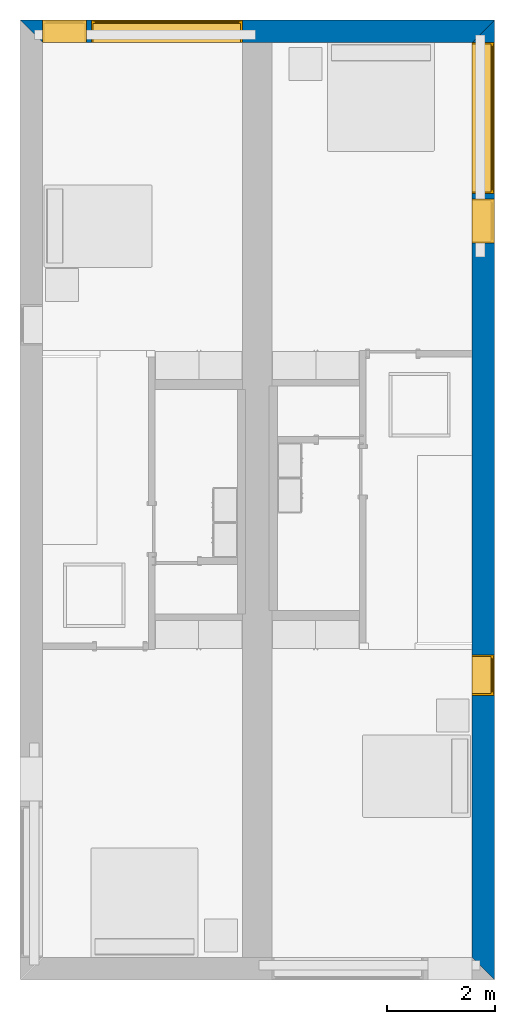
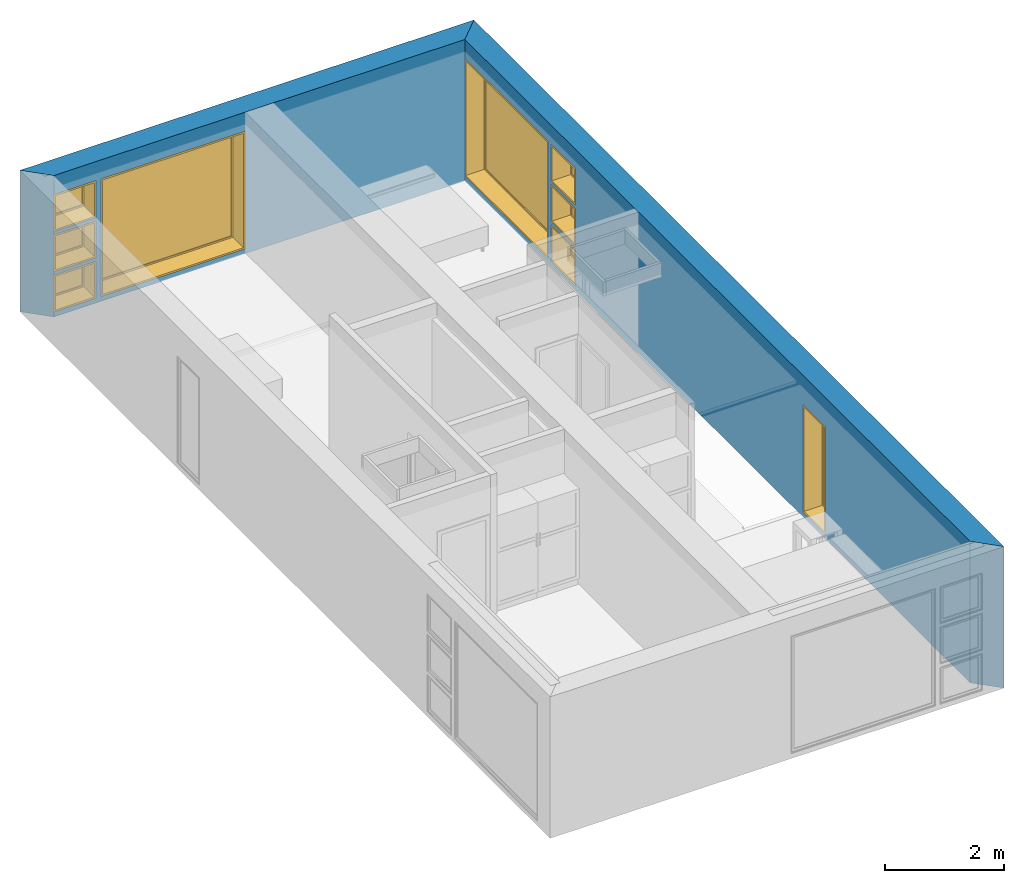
# One storey, part 4 of 16: 9 windows, 2 walls, 9 openings.
"""IFC4 building model written with IfcOpenShell, lengths in metres."""

from ifc_helpers import new_model, entity, si_unit, converted_unit, frame, frame_2d, origin, origin_2d_with_axis, place, context, project, spatial, polyline, rectangle, outline, extrude, source, transform, mapped, material, layer, layer_set, layer_usage, type_object, type_shapes, element, fill, save


model = new_model("IFC4")

# Units and contexts
model_context = context("Model", 3, precision=1e-09, world=origin())
plan_context = context("Plan", 3, precision=1e-09, world=origin())
ifc_project = project(units=[si_unit("LENGTHUNIT", "METRE"), si_unit("AREAUNIT", "SQUARE_METRE"), si_unit("VOLUMEUNIT", "CUBIC_METRE"), converted_unit("PLANEANGLEUNIT", "DEGREE", entity("IfcRatioMeasure", 0.01745329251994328), si_unit("PLANEANGLEUNIT", "RADIAN"), dimensions=[0, 0, 0, 0, 0, 0, 0]), si_unit("TIMEUNIT", "SECOND")], contexts=[model_context, plan_context])

# Site, building, storey
site_placement = place(None, origin())
site = spatial("IfcSite", under=ifc_project, at=site_placement, Name="Default", CompositionType="ELEMENT")
building_placement = place(site_placement, origin())
building = spatial("IfcBuilding", under=site, at=building_placement, CompositionType="ELEMENT")
storey_placement = place(building_placement, frame((0.0, 0.0, 3.100000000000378)))
storey = spatial("IfcBuildingStorey", under=building, at=storey_placement, Name="Level 2", CompositionType="ELEMENT", Elevation=3.100000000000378)

# Wall, openings, windows
ifc_material_1 = material(Name="Masonry - Brick")
ifc_layer_1 = layer(ifc_material_1, 0.092)
ifc_material_2 = material(Name="Misc. Air Layers - Air Space")
ifc_layer_2 = layer(ifc_material_2, 0.025)
ifc_material_3 = material(Name="Insulation / Thermal Barriers - Rigid insulation")
ifc_layer_3 = layer(ifc_material_3, 0.05)
ifc_material_4 = material(Name="Masonry - Concrete Block")
ifc_layer_4 = layer(ifc_material_4, 0.193)
ifc_material_5 = material(Name="Metal - Stud Layer")
ifc_layer_5 = layer(ifc_material_5, 0.041)
ifc_material_6 = material(Name="Plasterboard")
ifc_layer_6 = layer(ifc_material_6, 0.016)
ifc_layer_set = layer_set([ifc_layer_1, ifc_layer_2, ifc_layer_3, ifc_layer_4, ifc_layer_5, ifc_layer_6], Name="Basic Wall:Exterior - Brick on Block")
ifc_layer_usage_1 = layer_usage(ifc_layer_set, "AXIS2", "NEGATIVE", 0.2085000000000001)
wall_1_placement = place(storey_placement, frame((0.0, -0.2085000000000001, 0.0)))
wall_1 = element("IfcWall", 1, at=wall_1_placement, inside=storey, material=ifc_layer_usage_1, Name="Basic Wall:Exterior - Brick on Block", ObjectType="Basic Wall:Exterior - Brick on Block", PredefinedType="SOLIDWALL", context=model_context, shape_type="SweptSolid", body=[
    extrude(outline(polyline([(8.383000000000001, -0.2085000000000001), (8.8, 0.2085000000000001), (0.0, 0.2085000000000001), (0.4170000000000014, -0.2085000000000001), (4.125000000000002, -0.2085000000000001), (4.675000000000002, -0.2085000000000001), (8.383000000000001, -0.2085000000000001)])), origin(), (0.0, 0.0, 1.0), 2.900000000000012),
])
opening_1_placement = place(wall_1_placement, frame((0.4170000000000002, -0.2085000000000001, 1.750999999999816)))
opening_1 = element("IfcOpeningElement", 2, at=opening_1_placement, cuts=wall_1, Name="M_Fixed:819mm x 759mm:819mm x 759mm:1", ObjectType="Opening", context=model_context, shape_type="SweptSolid", body=[
    extrude(rectangle(XDim=0.7589999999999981, YDim=0.8189999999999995, at=frame_2d((0.3794999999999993, 0.4094999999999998), x_axis=(1.0, 0.0))), frame((0.0, 0.0, 0.0), z_axis=(0.0, 1.0, 0.0), x_axis=(0.0, 0.0, 1.0)), (0.0, 0.0, 1.0), 0.4170000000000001),
])
opening_2_placement = place(wall_1_placement, frame((0.417000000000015, -0.2085000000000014, 0.9254999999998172)))
opening_2 = element("IfcOpeningElement", 3, at=opening_2_placement, cuts=wall_1, Name="M_Casement:819mm x 759mm:819mm x 759mm:1", ObjectType="Opening", context=model_context, shape_type="SweptSolid", body=[
    extrude(rectangle(XDim=0.7590000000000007, YDim=0.8189999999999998, at=frame_2d((0.3795000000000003, 0.4094999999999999), x_axis=(-1.0, 0.0))), frame((0.0, 0.0, 0.0), z_axis=(0.0, 1.0, 0.0), x_axis=(0.0, 0.0, 1.0)), (0.0, 0.0, 1.0), 0.4170000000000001),
])
opening_3_placement = place(wall_1_placement, frame((0.4170000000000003, -0.2085000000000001, 0.0999999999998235)))
opening_3 = element("IfcOpeningElement", 4, at=opening_3_placement, cuts=wall_1, Name="M_Fixed:819mm x 759mm:819mm x 759mm:1", ObjectType="Opening", context=model_context, shape_type="SweptSolid", body=[
    extrude(rectangle(XDim=0.7589999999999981, YDim=0.8189999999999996, at=frame_2d((0.379499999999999, 0.4095), x_axis=(1.0, 0.0))), frame((0.0, 0.0, 0.0), z_axis=(0.0, 1.0, 0.0), x_axis=(0.0, 0.0, 1.0)), (0.0, 0.0, 1.0), 0.4170000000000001),
])
opening_4_placement = place(wall_1_placement, frame((1.325, -0.2084999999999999, 0.09999999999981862)))
opening_4 = element("IfcOpeningElement", 5, at=opening_4_placement, cuts=wall_1, Name="M_Fixed:2800mm x 2410mm:2800mm x 2410mm:1", ObjectType="Opening", context=model_context, shape_type="SweptSolid", body=[
    extrude(rectangle(XDim=2.409999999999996, YDim=2.8, at=frame_2d((1.204999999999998, 1.4), x_axis=(1.0, 0.0))), frame((0.0, 0.0, 0.0), z_axis=(0.0, 1.0, 0.0), x_axis=(0.0, 0.0, 1.0)), (0.0, 0.0, 1.0), 0.4170000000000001),
])
window_type_1 = type_object("IfcWindowType", Name="2800mm x 2410mm", ParameterTakesPrecedence=False, PartitioningType="NOTDEFINED", PredefinedType="WINDOW")
shared_shape_1 = source(origin(), model_context, "Body", "SweptSolid", [
    extrude(rectangle(XDim=0.01199999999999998, YDim=2.673999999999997, at=origin_2d_with_axis()), frame((1.400000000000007, 0.3759999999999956, 0.06299999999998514), z_axis=(0.0, 0.0, 1.0), x_axis=(0.0, -1.0, 0.0)), (0.0, 0.0, 1.0), 2.284000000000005),
    extrude(outline(polyline([(-1.381, -1.186000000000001), (1.381, -1.186000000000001), (1.381, 1.186000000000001), (-1.381, 1.186000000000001), (-1.381, -1.186000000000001)]), holes=[polyline([(-1.336999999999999, -1.142000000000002), (-1.336999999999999, 1.142000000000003), (1.336999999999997, 1.142000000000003), (1.336999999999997, -1.142000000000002), (-1.336999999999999, -1.142000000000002)])]), frame((1.400000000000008, 0.3539999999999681, 1.204999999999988), z_axis=(0.0, 1.0, 0.0), x_axis=(1.0, 0.0, 0.0)), (0.0, 0.0, 1.0), 0.04400000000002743),
    extrude(outline(polyline([(-1.4, -1.204999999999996), (1.4, -1.204999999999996), (1.4, 1.204999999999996), (-1.4, 1.204999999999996), (-1.4, -1.204999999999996)]), holes=[polyline([(-1.381000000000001, -1.185999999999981), (-1.381000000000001, 1.186000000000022), (1.380999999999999, 1.186000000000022), (1.380999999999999, -1.185999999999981), (-1.381000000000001, -1.185999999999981)])]), frame((1.400000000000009, 0.3539999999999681, 1.205000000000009), z_axis=(0.0, 1.0, 0.0), x_axis=(1.0, 0.0, 0.0)), (0.0, 0.0, 1.0), 0.06300000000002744),
    extrude(outline(polyline([(-1.4, -1.204999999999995), (1.4, -1.204999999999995), (1.4, 1.204999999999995), (-1.4, 1.204999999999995), (-1.4, -1.204999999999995)]), holes=[polyline([(-1.368, -1.172999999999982), (-1.368, 1.17300000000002), (1.368, 1.17300000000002), (1.367999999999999, -1.172999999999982), (-1.368, -1.172999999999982)])]), frame((1.40000000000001, 0.0, 1.205000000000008), z_axis=(0.0, 1.0, 0.0), x_axis=(1.0, 0.0, 0.0)), (0.0, 0.0, 1.0), 0.3539999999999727),
])
type_shapes(window_type_1, [shared_shape_1])
window_1_placement = place(opening_4_placement, origin())
window_1 = element("IfcWindow", 6, at=window_1_placement, inside=storey, type_object=window_type_1, Name="M_Fixed:2800mm x 2410mm:2800mm x 2410mm", ObjectType="2800mm x 2410mm", OverallHeight=2.409999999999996, OverallWidth=2.8, context=model_context, shape_type="MappedRepresentation", body=[
    mapped(shared_shape_1, transform((0.0, 0.0, 0.0), scale=1.0)),
])
fill(opening_4, window_1)
window_type_2 = type_object("IfcWindowType", Name="819mm x 759mm", ParameterTakesPrecedence=False, PartitioningType="NOTDEFINED", PredefinedType="WINDOW")
shared_shape_2 = source(origin(), model_context, "Body", "SweptSolid", [
    extrude(rectangle(XDim=0.01199999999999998, YDim=0.6929999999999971, at=origin_2d_with_axis()), frame((0.4095000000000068, 0.3759999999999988, 0.06299999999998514), z_axis=(0.0, 0.0, 1.0), x_axis=(0.0, -1.0, 0.0)), (0.0, 0.0, 1.0), 0.6330000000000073),
    extrude(outline(polyline([(-0.3904999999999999, -0.3605000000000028), (0.3904999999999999, -0.3605000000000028), (0.3904999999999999, 0.3605000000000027), (-0.3904999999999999, 0.3605000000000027), (-0.3904999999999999, -0.3605000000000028)]), holes=[polyline([(-0.3464999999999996, -0.3165000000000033), (-0.3464999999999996, 0.316500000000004), (0.3464999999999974, 0.316500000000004), (0.3464999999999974, -0.3165000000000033), (-0.3464999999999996, -0.3165000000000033)])]), frame((0.4095000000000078, 0.3539999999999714, 0.3794999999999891), z_axis=(0.0, 1.0, 0.0), x_axis=(1.0, 0.0, 0.0)), (0.0, 0.0, 1.0), 0.04400000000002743),
    extrude(outline(polyline([(-0.4094999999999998, -0.3794999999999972), (0.4094999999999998, -0.3794999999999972), (0.4094999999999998, 0.3794999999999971), (-0.4094999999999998, 0.3794999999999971), (-0.4094999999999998, -0.3794999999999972)]), holes=[polyline([(-0.3905000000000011, -0.3604999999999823), (-0.3905000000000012, 0.3605000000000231), (0.3904999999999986, 0.3605000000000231), (0.3904999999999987, -0.3604999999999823), (-0.3905000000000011, -0.3604999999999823)])]), frame((0.4095000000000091, 0.3539999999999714, 0.3795000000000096), z_axis=(0.0, 1.0, 0.0), x_axis=(1.0, 0.0, 0.0)), (0.0, 0.0, 1.0), 0.06300000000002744),
    extrude(outline(polyline([(-0.4095000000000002, -0.3794999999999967), (0.4095000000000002, -0.3794999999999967), (0.4095000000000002, 0.3794999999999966), (-0.4095000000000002, 0.3794999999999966), (-0.4095000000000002, -0.3794999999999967)]), holes=[polyline([(-0.3774999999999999, -0.3474999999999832), (-0.3774999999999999, 0.3475000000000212), (0.3775000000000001, 0.3475000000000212), (0.3775000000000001, -0.3474999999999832), (-0.3774999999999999, -0.3474999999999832)])]), frame((0.4095000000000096, 0.0, 0.379500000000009), z_axis=(0.0, 1.0, 0.0), x_axis=(1.0, 0.0, 0.0)), (0.0, 0.0, 1.0), 0.3539999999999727),
])
type_shapes(window_type_2, [shared_shape_2])
window_2_placement = place(opening_3_placement, origin())
window_2 = element("IfcWindow", 7, at=window_2_placement, inside=storey, type_object=window_type_2, Name="M_Fixed:819mm x 759mm:819mm x 759mm", ObjectType="819mm x 759mm", OverallHeight=0.758999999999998, OverallWidth=0.8189999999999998, context=model_context, shape_type="MappedRepresentation", body=[
    mapped(shared_shape_2, transform((0.0, 0.0, 0.0), scale=1.0)),
])
fill(opening_3, window_2)
window_3_placement = place(opening_1_placement, origin())
window_3 = element("IfcWindow", 8, at=window_3_placement, inside=storey, type_object=window_type_2, Name="M_Fixed:819mm x 759mm:819mm x 759mm", ObjectType="819mm x 759mm", OverallHeight=0.7589999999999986, OverallWidth=0.8189999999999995, context=model_context, shape_type="MappedRepresentation", body=[
    mapped(shared_shape_2, transform((0.0, 0.0, 0.0), scale=1.0)),
])
fill(opening_1, window_3)
window_type_3 = type_object("IfcWindowType", Name="819mm x 759mm", ParameterTakesPrecedence=False, PartitioningType="NOTDEFINED", PredefinedType="WINDOW")
shared_shape_3 = source(origin(), model_context, "Body", "SweptSolid", [
    extrude(rectangle(XDim=0.01269999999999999, YDim=0.6919999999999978, at=origin_2d_with_axis()), frame((0.4095000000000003, 0.3757750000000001, 0.06350000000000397), z_axis=(0.0, 0.0, 1.0), x_axis=(0.0, 1.0, 0.0)), (0.0, 0.0, 1.0), 0.6320000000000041),
    extrude(outline(polyline([(-0.3904499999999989, -0.3604500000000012), (0.3904499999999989, -0.3604500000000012), (0.3904499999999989, 0.3604500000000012), (-0.3904499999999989, 0.3604500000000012), (-0.3904499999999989, -0.3604500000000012)]), holes=[polyline([(-0.3459999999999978, -0.3160000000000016), (-0.3459999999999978, 0.3160000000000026), (0.346, 0.3160000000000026), (0.346, -0.3160000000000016), (-0.3459999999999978, -0.3160000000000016)])]), frame((0.4094999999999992, 0.3535500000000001, 0.3795000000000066), z_axis=(0.0, 1.0, 0.0), x_axis=(1.0, 0.0, 0.0)), (0.0, 0.0, 1.0), 0.04445),
    extrude(outline(polyline([(-0.4094999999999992, -0.3795000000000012), (0.4094999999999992, -0.3795000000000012), (0.4094999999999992, 0.3795000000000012), (-0.4094999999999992, 0.3795000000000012), (-0.4094999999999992, -0.3795000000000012)]), holes=[polyline([(-0.3777500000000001, -0.3477499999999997), (-0.3777500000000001, 0.3477500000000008), (0.3777499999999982, 0.3477500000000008), (0.3777499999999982, -0.3477499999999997), (-0.3777500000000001, -0.3477499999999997)])]), frame((0.4095000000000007, 0.0, 0.3795000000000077), z_axis=(0.0, 1.0, 0.0), x_axis=(1.0, 0.0, 0.0)), (0.0, 0.0, 1.0), 0.3535500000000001),
    extrude(outline(polyline([(-0.3795000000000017, -0.4094999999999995), (0.3795000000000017, -0.4094999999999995), (0.3795000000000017, 0.4094999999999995), (-0.3795000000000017, 0.4094999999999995), (-0.3795000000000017, -0.4094999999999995)]), holes=[polyline([(-0.3604500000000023, -0.3904499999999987), (-0.3604500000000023, 0.3904499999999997), (0.3604500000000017, 0.3904499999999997), (0.3604500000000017, -0.3904499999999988), (-0.3604500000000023, -0.3904499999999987)])]), frame((0.4095000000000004, 0.3535500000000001, 0.3795000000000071), z_axis=(0.0, 1.0, 0.0), x_axis=(0.0, 0.0, -1.0)), (0.0, 0.0, 1.0), 0.06345),
])
type_shapes(window_type_3, [shared_shape_3])
window_4_placement = place(opening_2_placement, origin())
window_4 = element("IfcWindow", 9, at=window_4_placement, inside=storey, type_object=window_type_3, Name="M_Casement:819mm x 759mm:819mm x 759mm", ObjectType="819mm x 759mm", OverallHeight=0.7590000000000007, OverallWidth=0.819, context=model_context, shape_type="MappedRepresentation", body=[
    mapped(shared_shape_3, transform((0.0, 0.0, 0.0), scale=1.0)),
])
fill(opening_2, window_4)

ifc_layer_usage_2 = layer_usage(ifc_layer_set, "AXIS2", "NEGATIVE", 0.2085000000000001)
wall_2_placement = place(storey_placement, frame((8.5915, 0.0, 0.0), z_axis=(0.0, 0.0, 1.0), x_axis=(0.0, -1.0, 0.0)))
wall_2 = element("IfcWall", 10, at=wall_2_placement, inside=storey, material=ifc_layer_usage_2, Name="Basic Wall:Exterior - Brick on Block", ObjectType="Basic Wall:Exterior - Brick on Block", PredefinedType="SOLIDWALL", context=model_context, shape_type="SweptSolid", body=[
    extrude(outline(polyline([(17.38299999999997, -0.2084999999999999), (17.79999999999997, 0.2085000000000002), (0.0, 0.2085000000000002), (0.4169999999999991, -0.2085000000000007), (6.125999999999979, -0.2084999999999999), (6.24999999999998, -0.2084999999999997), (17.38299999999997, -0.2084999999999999)])), origin(), (0.0, 0.0, 1.0), 2.900000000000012),
])
opening_5_placement = place(wall_2_placement, frame((11.774, -0.2085000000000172, 0.09999999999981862)))
opening_5 = element("IfcOpeningElement", 11, at=opening_5_placement, cuts=wall_2, Name="M_Fixed:750mm x 2200mm:750mm x 2200mm:1", ObjectType="Opening", context=model_context, shape_type="SweptSolid", body=[
    extrude(rectangle(XDim=2.199999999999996, YDim=0.7499999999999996, at=frame_2d((1.099999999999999, 0.3749999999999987), x_axis=(1.0, 0.0))), frame((0.0, 0.0, 0.0), z_axis=(0.0, 1.0, 0.0), x_axis=(0.0, 0.0, 1.0)), (0.0, 0.0, 1.0), 0.4170000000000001),
])
opening_6_placement = place(wall_2_placement, frame((3.317000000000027, -0.2085000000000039, 0.09999999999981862)))
opening_6 = element("IfcOpeningElement", 12, at=opening_6_placement, cuts=wall_2, Name="M_Fixed:819mm x 759mm:819mm x 759mm:1", ObjectType="Opening", context=model_context, shape_type="SweptSolid", body=[
    extrude(rectangle(XDim=0.7589999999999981, YDim=0.8189999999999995, at=frame_2d((0.3794999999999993, 0.4094999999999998), x_axis=(1.0, 0.0))), frame((0.0, 0.0, 0.0), z_axis=(0.0, 1.0, 0.0), x_axis=(0.0, 0.0, 1.0)), (0.0, 0.0, 1.0), 0.4170000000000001),
])
opening_7_placement = place(wall_2_placement, frame((3.317000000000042, -0.2085000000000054, 0.9254999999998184)))
opening_7 = element("IfcOpeningElement", 13, at=opening_7_placement, cuts=wall_2, Name="M_Casement:819mm x 759mm:819mm x 759mm:1", ObjectType="Opening", context=model_context, shape_type="SweptSolid", body=[
    extrude(rectangle(XDim=0.7590000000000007, YDim=0.8189999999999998, at=frame_2d((0.3795000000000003, 0.4094999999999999), x_axis=(-1.0, 0.0))), frame((0.0, 0.0, 0.0), z_axis=(0.0, 1.0, 0.0), x_axis=(0.0, 0.0, 1.0)), (0.0, 0.0, 1.0), 0.4170000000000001),
])
opening_8_placement = place(wall_2_placement, frame((0.4170000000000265, -0.2084999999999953, 0.09999999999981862)))
opening_8 = element("IfcOpeningElement", 14, at=opening_8_placement, cuts=wall_2, Name="M_Fixed:2800mm x 2410mm:2800mm x 2410mm:1", ObjectType="Opening", context=model_context, shape_type="SweptSolid", body=[
    extrude(rectangle(XDim=2.409999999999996, YDim=2.8, at=frame_2d((1.204999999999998, 1.4), x_axis=(1.0, 0.0))), frame((0.0, 0.0, 0.0), z_axis=(0.0, 1.0, 0.0), x_axis=(0.0, 0.0, 1.0)), (0.0, 0.0, 1.0), 0.4170000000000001),
])
opening_9_placement = place(wall_2_placement, frame((3.317000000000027, -0.2085000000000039, 1.750999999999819)))
opening_9 = element("IfcOpeningElement", 15, at=opening_9_placement, cuts=wall_2, Name="M_Fixed:819mm x 759mm:819mm x 759mm:1", ObjectType="Opening", context=model_context, shape_type="SweptSolid", body=[
    extrude(rectangle(XDim=0.7589999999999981, YDim=0.8189999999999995, at=frame_2d((0.379499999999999, 0.4094999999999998), x_axis=(1.0, 0.0))), frame((0.0, 0.0, 0.0), z_axis=(0.0, 1.0, 0.0), x_axis=(0.0, 0.0, 1.0)), (0.0, 0.0, 1.0), 0.4170000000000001),
])
window_type_4 = type_object("IfcWindowType", Name="750mm x 2200mm", ParameterTakesPrecedence=False, PartitioningType="NOTDEFINED", PredefinedType="WINDOW")
shared_shape_4 = source(origin(), model_context, "Body", "SweptSolid", [
    extrude(rectangle(XDim=0.01199999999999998, YDim=0.623999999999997, at=origin_2d_with_axis()), frame((0.375000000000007, 0.3759999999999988, 0.06299999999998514), z_axis=(0.0, 0.0, 1.0), x_axis=(0.0, -1.0, 0.0)), (0.0, 0.0, 1.0), 2.074000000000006),
    extrude(outline(polyline([(-0.3559999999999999, -1.081000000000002), (0.3559999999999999, -1.081000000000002), (0.3559999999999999, 1.081000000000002), (-0.3559999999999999, 1.081000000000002), (-0.3559999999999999, -1.081000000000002)]), holes=[polyline([(-0.3119999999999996, -1.037000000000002), (-0.3119999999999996, 1.037000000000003), (0.3119999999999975, 1.037000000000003), (0.3119999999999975, -1.037000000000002), (-0.3119999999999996, -1.037000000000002)])]), frame((0.3750000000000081, 0.3539999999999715, 1.099999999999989), z_axis=(0.0, 1.0, 0.0), x_axis=(1.0, 0.0, 0.0)), (0.0, 0.0, 1.0), 0.04400000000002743),
    extrude(outline(polyline([(-0.3749999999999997, -1.099999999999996), (0.3749999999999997, -1.099999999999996), (0.3749999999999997, 1.099999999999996), (-0.3749999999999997, 1.099999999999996), (-0.3749999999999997, -1.099999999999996)]), holes=[polyline([(-0.3560000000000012, -1.080999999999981), (-0.3560000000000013, 1.081000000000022), (0.3559999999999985, 1.081000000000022), (0.3559999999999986, -1.080999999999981), (-0.3560000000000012, -1.080999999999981)])]), frame((0.3750000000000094, 0.3539999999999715, 1.100000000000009), z_axis=(0.0, 1.0, 0.0), x_axis=(1.0, 0.0, 0.0)), (0.0, 0.0, 1.0), 0.06300000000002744),
    extrude(outline(polyline([(-0.3750000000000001, -1.099999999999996), (0.3750000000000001, -1.099999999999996), (0.3750000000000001, 1.099999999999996), (-0.3750000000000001, 1.099999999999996), (-0.3750000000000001, -1.099999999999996)]), holes=[polyline([(-0.3429999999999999, -1.067999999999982), (-0.3429999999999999, 1.06800000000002), (0.3430000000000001, 1.06800000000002), (0.3430000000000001, -1.067999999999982), (-0.3429999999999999, -1.067999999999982)])]), frame((0.3750000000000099, 0.0, 1.100000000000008), z_axis=(0.0, 1.0, 0.0), x_axis=(1.0, 0.0, 0.0)), (0.0, 0.0, 1.0), 0.3539999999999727),
])
type_shapes(window_type_4, [shared_shape_4])
window_5_placement = place(opening_5_placement, origin())
window_5 = element("IfcWindow", 16, at=window_5_placement, inside=storey, type_object=window_type_4, Name="M_Fixed:750mm x 2200mm:750mm x 2200mm", ObjectType="750mm x 2200mm", OverallHeight=2.199999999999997, OverallWidth=0.7499999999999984, context=model_context, shape_type="MappedRepresentation", body=[
    mapped(shared_shape_4, transform((0.0, 0.0, 0.0), scale=1.0)),
])
fill(opening_5, window_5)
window_6_placement = place(opening_8_placement, origin())
window_6 = element("IfcWindow", 17, at=window_6_placement, inside=storey, type_object=window_type_1, Name="M_Fixed:2800mm x 2410mm:2800mm x 2410mm", ObjectType="2800mm x 2410mm", OverallHeight=2.409999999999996, OverallWidth=2.8, context=model_context, shape_type="MappedRepresentation", body=[
    mapped(shared_shape_1, transform((0.0, 0.0, 0.0), scale=1.0)),
])
fill(opening_8, window_6)
window_7_placement = place(opening_6_placement, origin())
window_7 = element("IfcWindow", 18, at=window_7_placement, inside=storey, type_object=window_type_2, Name="M_Fixed:819mm x 759mm:819mm x 759mm", ObjectType="819mm x 759mm", OverallHeight=0.7589999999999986, OverallWidth=0.8189999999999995, context=model_context, shape_type="MappedRepresentation", body=[
    mapped(shared_shape_2, transform((0.0, 0.0, 0.0), scale=1.0)),
])
fill(opening_6, window_7)
window_8_placement = place(opening_9_placement, origin())
window_8 = element("IfcWindow", 19, at=window_8_placement, inside=storey, type_object=window_type_2, Name="M_Fixed:819mm x 759mm:819mm x 759mm", ObjectType="819mm x 759mm", OverallHeight=0.758999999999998, OverallWidth=0.8189999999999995, context=model_context, shape_type="MappedRepresentation", body=[
    mapped(shared_shape_2, transform((0.0, 0.0, 0.0), scale=1.0)),
])
fill(opening_9, window_8)
window_9_placement = place(opening_7_placement, origin())
window_9 = element("IfcWindow", 20, at=window_9_placement, inside=storey, type_object=window_type_3, Name="M_Casement:819mm x 759mm:819mm x 759mm", ObjectType="819mm x 759mm", OverallHeight=0.7590000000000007, OverallWidth=0.8190000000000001, context=model_context, shape_type="MappedRepresentation", body=[
    mapped(shared_shape_3, transform((0.0, 0.0, 0.0), scale=1.0)),
])
fill(opening_7, window_9)

save(model, "model.ifc")
